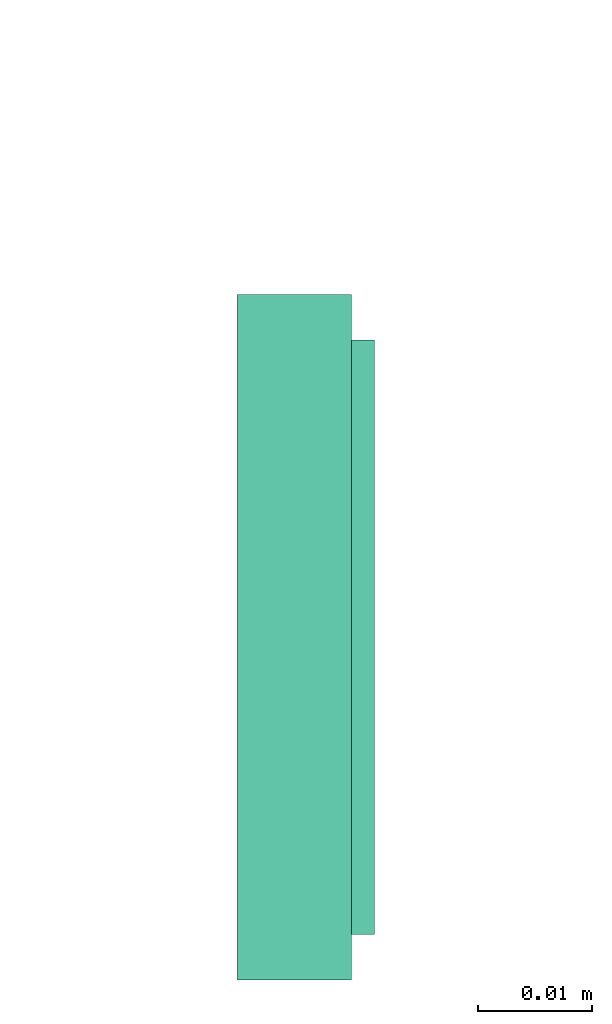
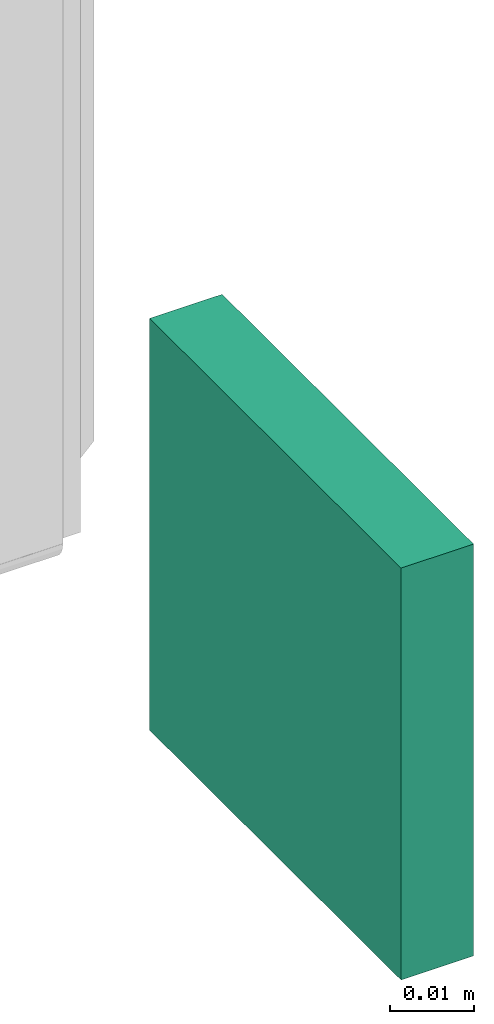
# One storey, part 3 of 5: 1 flow controller.
"""IFC2X3 building model written with IfcOpenShell, lengths in millimetres."""

from ifc_helpers import new_model, entity, si_unit, converted_unit, derived_unit, direction, frame, origin_with_axes, place, context, subcontext, project, spatial, open_shell, surface_model, source, transform, mapped, type_object, element, save


model = new_model("IFC2X3")

# Units and contexts
model_context = context("Model", 3, precision=0.01, world=frame((0.0, 4.29681676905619e-09, 0.0)), true_north=direction((4.01073788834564e-13, 1.0)))
plan_context = context("Plan", 3, precision=0.01, world=frame((0.0, 4.29681676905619e-09, 0.0)), true_north=direction((4.01073788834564e-13, 1.0)))
body_context = subcontext(model_context, "Body", "Model", "MODEL_VIEW")
ifc_project = project(units=[converted_unit("PLANEANGLEUNIT", "DEGREE", entity("IfcPositiveLengthMeasure", 0.0174532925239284), si_unit("PLANEANGLEUNIT", "RADIAN"), dimensions=[0, 0, 0, 0, 0, 0, 0]), si_unit("AREAUNIT", "SQUARE_METRE"), si_unit("LENGTHUNIT", "METRE", prefix="MILLI"), si_unit("MASSUNIT", "GRAM", prefix="KILO"), si_unit("POWERUNIT", "WATT"), si_unit("PRESSUREUNIT", "PASCAL"), si_unit("FORCEUNIT", "NEWTON", prefix="KILO"), si_unit("ELECTRICVOLTAGEUNIT", "VOLT"), si_unit("ELECTRICCURRENTUNIT", "AMPERE"), si_unit("THERMODYNAMICTEMPERATUREUNIT", "DEGREE_CELSIUS"), si_unit("TIMEUNIT", "SECOND"), si_unit("VOLUMEUNIT", "CUBIC_METRE"), derived_unit("LINEARVELOCITYUNIT", [(si_unit("LENGTHUNIT", "METRE"), 1), (si_unit("TIMEUNIT", "SECOND"), -1)]), derived_unit("VOLUMETRICFLOWRATEUNIT", [(si_unit("VOLUMEUNIT", "CUBIC_METRE"), 1), (si_unit("TIMEUNIT", "SECOND"), -1)]), derived_unit("THERMALTRANSMITTANCEUNIT", [(si_unit("POWERUNIT", "WATT"), 1), (si_unit("THERMODYNAMICTEMPERATUREUNIT", "KELVIN"), -1), (si_unit("AREAUNIT", "SQUARE_METRE"), -1)]), derived_unit("SOUNDPRESSUREUNIT", [(si_unit("PRESSUREUNIT", "PASCAL"), 1)])], contexts=[model_context, plan_context])

# Site, building, storey
site_placement = place(None, frame((0.0, -4.29681676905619e-09, 0.0), z_axis=(0.0, 0.0, 1.0), x_axis=(1.0, 0.0, 0.0)))
site = spatial("IfcSite", under=ifc_project, at=site_placement, Name="ENGM", CompositionType="ELEMENT")
building_placement = place(site_placement, frame((0.0, 4.29681676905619e-09, 0.0), z_axis=(0.0, 0.0, 1.0), x_axis=(1.0, 0.0, 0.0)))
building = spatial("IfcBuilding", under=site, at=building_placement, Name="TS", CompositionType="ELEMENT")
storey_placement = place(building_placement, frame((0.0, 0.0, 210900.0), z_axis=(0.0, 0.0, 1.0), x_axis=(1.0, 0.0, 0.0)))
storey = spatial("IfcBuildingStorey", under=building, at=storey_placement, Name="Nivå F", CompositionType="ELEMENT", Elevation=210900.0)

# Flow controller
switching_device_type = type_object("IfcSwitchingDeviceType", Name="Åpneknapp", PredefinedType="NOTDEFINED")
shared_shape = source(origin_with_axes(), body_context, "Body", "SurfaceModel", [
    surface_model("IfcShellBasedSurfaceModel", [(-30.0, 10.0, 30.0), (-30.0, 0.0, 30.0), (30.0, 0.0, 30.0), (30.0, 10.0, 30.0), (30.0, 10.0, -30.0), (30.0, 0.0, -30.0), (-30.0, 0.0, -30.0), (-30.0, 10.0, -30.0), (-26.0, 12.0, 26.0), (-26.0, 10.0, 26.0), (26.0, 12.0, 26.0), (26.0, 10.0, 26.0), (26.0, 12.0, -26.0), (26.0, 10.0, -26.0), (-26.0, 12.0, -26.0), (-26.0, 10.0, -26.0)], [open_shell([[[0, 1, 2]], [[2, 3, 0]], [[4, 5, 6]], [[6, 7, 4]], [[2, 1, 6]], [[6, 5, 2]], [[3, 2, 5]], [[5, 4, 3]], [[0, 3, 4]], [[4, 7, 0]], [[1, 0, 7]], [[7, 6, 1]], [[8, 9, 10]], [[11, 10, 9]], [[12, 13, 14]], [[15, 14, 13]], [[11, 9, 15]], [[15, 13, 11]], [[10, 11, 12]], [[13, 12, 11]], [[8, 10, 12]], [[12, 14, 8]], [[9, 8, 15]], [[14, 15, 8]]])]),
])
flow_controller_placement = place(storey_placement, frame((533737.5375, 446660.00039, 900.0), z_axis=(0.0, 0.0, 1.0), x_axis=(0.0, -1.0, 0.0)))
element("IfcFlowController", 1, at=flow_controller_placement, inside=storey, type_object=switching_device_type, Name="Åpneknapp", context=body_context, shape_type="MappedRepresentation", body=[
    mapped(shared_shape, transform((0.0, 0.0, 0.0), scale=1.0)),
])

save(model, "model.ifc")
